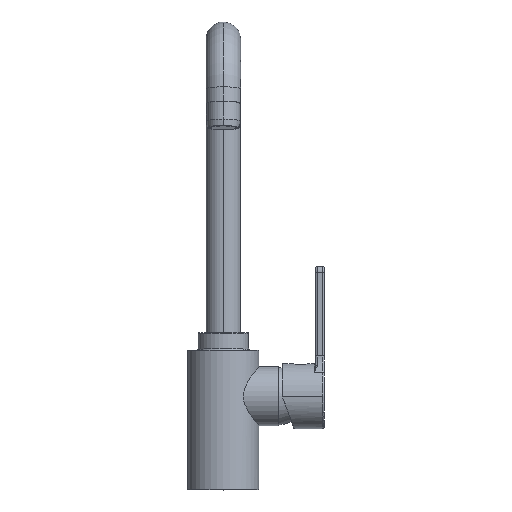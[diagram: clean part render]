
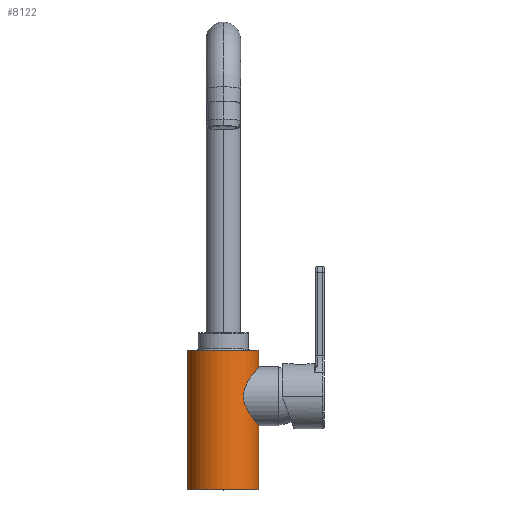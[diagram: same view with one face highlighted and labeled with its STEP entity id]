
A CAD part, top view. The second image highlights one B-rep face of the part: STEP entity #8122.
In plain terms, the highlighted cylindrical face has radius 24.75 mm (diameter 49.5 mm), a partial arc.
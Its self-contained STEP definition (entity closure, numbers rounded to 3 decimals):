
#2290=CARTESIAN_POINT('',(0.,96.8,0.));
#2291=DIRECTION('',(0.,-1.,0.));
#2292=DIRECTION('',(1.,0.,0.));
#2293=AXIS2_PLACEMENT_3D('',#2290,#2291,#2292);
#2295=CARTESIAN_POINT('',(24.75,44.5,0.));
#2296=CARTESIAN_POINT('',(24.75,44.5,0.27));
#2297=CARTESIAN_POINT('',(24.741,44.511,0.812));
#2298=CARTESIAN_POINT('',(24.701,44.559,1.624));
#2299=CARTESIAN_POINT('',(24.634,44.64,2.436));
#2300=CARTESIAN_POINT('',(24.54,44.754,3.249));
#2301=CARTESIAN_POINT('',(24.419,44.901,4.062));
#2302=CARTESIAN_POINT('',(24.27,45.082,4.875));
#2303=CARTESIAN_POINT('',(24.092,45.299,5.689));
#2304=CARTESIAN_POINT('',(23.885,45.552,6.503));
#2305=CARTESIAN_POINT('',(23.649,45.843,7.315));
#2306=CARTESIAN_POINT('',(23.383,46.173,8.127));
#2307=CARTESIAN_POINT('',(23.086,46.543,8.937));
#2308=CARTESIAN_POINT('',(22.757,46.956,9.743));
#2309=CARTESIAN_POINT('',(22.397,47.411,10.544));
#2310=CARTESIAN_POINT('',(22.006,47.913,11.339));
#2311=CARTESIAN_POINT('',(21.583,48.461,12.125));
#2312=CARTESIAN_POINT('',(21.13,49.056,12.899));
#2313=CARTESIAN_POINT('',(20.648,49.7,13.656));
#2314=CARTESIAN_POINT('',(20.14,50.392,14.395));
#2315=CARTESIAN_POINT('',(19.61,51.131,15.108));
#2316=CARTESIAN_POINT('',(19.064,51.914,15.791));
#2317=CARTESIAN_POINT('',(18.509,52.735,16.438));
#2318=CARTESIAN_POINT('',(17.956,53.587,17.039));
#2319=CARTESIAN_POINT('',(17.414,54.459,17.592));
#2320=CARTESIAN_POINT('',(16.895,55.34,18.091));
#2321=CARTESIAN_POINT('',(16.411,56.215,18.53));
#2322=CARTESIAN_POINT('',(15.966,57.076,18.914));
#2323=CARTESIAN_POINT('',(15.567,57.916,19.244));
#2324=CARTESIAN_POINT('',(15.215,58.726,19.522));
#2325=CARTESIAN_POINT('',(14.91,59.509,19.756));
#2326=CARTESIAN_POINT('',(14.649,60.262,19.95));
#2327=CARTESIAN_POINT('',(14.431,60.989,20.108));
#2328=CARTESIAN_POINT('',(14.251,61.694,20.236));
#2329=CARTESIAN_POINT('',(14.108,62.378,20.335));
#2330=CARTESIAN_POINT('',(13.999,63.047,20.41));
#2331=CARTESIAN_POINT('',(13.923,63.705,20.463));
#2332=CARTESIAN_POINT('',(13.878,64.355,20.493));
#2333=CARTESIAN_POINT('',(13.863,65.,20.503));
#2334=CARTESIAN_POINT('',(13.878,65.646,20.493));
#2335=CARTESIAN_POINT('',(13.923,66.296,20.462));
#2336=CARTESIAN_POINT('',(14.,66.954,20.41));
#2337=CARTESIAN_POINT('',(14.108,67.622,20.335));
#2338=CARTESIAN_POINT('',(14.251,68.307,20.236));
#2339=CARTESIAN_POINT('',(14.431,69.012,20.108));
#2340=CARTESIAN_POINT('',(14.649,69.739,19.95));
#2341=CARTESIAN_POINT('',(14.91,70.493,19.756));
#2342=CARTESIAN_POINT('',(15.215,71.275,19.522));
#2343=CARTESIAN_POINT('',(15.567,72.085,19.243));
#2344=CARTESIAN_POINT('',(15.967,72.925,18.914));
#2345=CARTESIAN_POINT('',(16.411,73.785,18.53));
#2346=CARTESIAN_POINT('',(16.895,74.66,18.09));
#2347=CARTESIAN_POINT('',(17.415,75.541,17.592));
#2348=CARTESIAN_POINT('',(17.956,76.413,17.039));
#2349=CARTESIAN_POINT('',(18.509,77.264,16.438));
#2350=CARTESIAN_POINT('',(19.064,78.086,15.791));
#2351=CARTESIAN_POINT('',(19.61,78.869,15.108));
#2352=CARTESIAN_POINT('',(20.14,79.608,14.395));
#2353=CARTESIAN_POINT('',(20.648,80.3,13.656));
#2354=CARTESIAN_POINT('',(21.129,80.944,12.899));
#2355=CARTESIAN_POINT('',(21.583,81.539,12.125));
#2356=CARTESIAN_POINT('',(22.005,82.087,11.34));
#2357=CARTESIAN_POINT('',(22.397,82.588,10.544));
#2358=CARTESIAN_POINT('',(22.757,83.044,9.743));
#2359=CARTESIAN_POINT('',(23.086,83.457,8.937));
#2360=CARTESIAN_POINT('',(23.383,83.827,8.127));
#2361=CARTESIAN_POINT('',(23.649,84.157,7.315));
#2362=CARTESIAN_POINT('',(23.885,84.448,6.503));
#2363=CARTESIAN_POINT('',(24.092,84.701,5.689));
#2364=CARTESIAN_POINT('',(24.27,84.918,4.876));
#2365=CARTESIAN_POINT('',(24.419,85.099,4.062));
#2366=CARTESIAN_POINT('',(24.54,85.246,3.249));
#2367=CARTESIAN_POINT('',(24.634,85.36,2.436));
#2368=CARTESIAN_POINT('',(24.701,85.441,1.624));
#2369=CARTESIAN_POINT('',(24.741,85.489,0.812));
#2370=CARTESIAN_POINT('',(24.75,85.5,0.27));
#2371=CARTESIAN_POINT('',(24.75,85.5,0.));
#2373=CARTESIAN_POINT('',(0.,0.2,0.));
#2374=DIRECTION('',(0.,-1.,0.));
#2375=DIRECTION('',(1.,0.,0.));
#2376=AXIS2_PLACEMENT_3D('',#2373,#2374,#2375);
#2393=DIRECTION('',(0.,-1.,0.));
#2394=VECTOR('',#2393,96.6);
#2395=CARTESIAN_POINT('',(-24.75,96.8,0.));
#2396=LINE('',#2395,#2394);
#2402=DIRECTION('',(0.,-1.,0.));
#2403=VECTOR('',#2402,44.3);
#2404=CARTESIAN_POINT('',(24.75,44.5,0.));
#2405=LINE('',#2404,#2403);
#2484=DIRECTION('',(0.,-1.,0.));
#2485=VECTOR('',#2484,11.3);
#2486=CARTESIAN_POINT('',(24.75,96.8,0.));
#2487=LINE('',#2486,#2485);
#4601=VERTEX_POINT('',#2295);
#4602=VERTEX_POINT('',#2371);
#4777=CARTESIAN_POINT('',(-24.75,96.8,0.));
#4778=CARTESIAN_POINT('',(24.75,96.8,0.));
#4779=VERTEX_POINT('',#4777);
#4780=VERTEX_POINT('',#4778);
#4789=CARTESIAN_POINT('',(24.75,0.2,0.));
#4790=CARTESIAN_POINT('',(-24.75,0.2,0.));
#4791=VERTEX_POINT('',#4789);
#4792=VERTEX_POINT('',#4790);
#8104=CARTESIAN_POINT('',(0.,-5.45,0.));
#8105=DIRECTION('',(0.,1.,0.));
#8106=DIRECTION('',(1.,0.,0.));
#8107=AXIS2_PLACEMENT_3D('',#8104,#8105,#8106);
#8108=CYLINDRICAL_SURFACE('',#8107,24.75);
#8110=ORIENTED_EDGE('',*,*,#8109,.F.);
#8112=ORIENTED_EDGE('',*,*,#8111,.T.);
#8113=ORIENTED_EDGE('',*,*,#8094,.F.);
#8115=ORIENTED_EDGE('',*,*,#8114,.T.);
#8117=ORIENTED_EDGE('',*,*,#8116,.T.);
#8119=ORIENTED_EDGE('',*,*,#8118,.F.);
#8120=EDGE_LOOP('',(#8110,#8112,#8113,#8115,#8117,#8119));
#8121=FACE_OUTER_BOUND('',#8120,.F.);
#8122=ADVANCED_FACE('',(#8121),#8108,.T.);
#2294=CIRCLE('',#2293,24.75);
#2372=B_SPLINE_CURVE_WITH_KNOTS('',3,(#2295,#2296,#2297,#2298,#2299,#2300,#2301,
#2302,#2303,#2304,#2305,#2306,#2307,#2308,#2309,#2310,#2311,#2312,#2313,#2314,
#2315,#2316,#2317,#2318,#2319,#2320,#2321,#2322,#2323,#2324,#2325,#2326,#2327,
#2328,#2329,#2330,#2331,#2332,#2333,#2334,#2335,#2336,#2337,#2338,#2339,#2340,
#2341,#2342,#2343,#2344,#2345,#2346,#2347,#2348,#2349,#2350,#2351,#2352,#2353,
#2354,#2355,#2356,#2357,#2358,#2359,#2360,#2361,#2362,#2363,#2364,#2365,#2366,
#2367,#2368,#2369,#2370,#2371),.UNSPECIFIED.,.F.,.F.,(4,1,1,1,1,1,1,1,1,1,1,1,1,
1,1,1,1,1,1,1,1,1,1,1,1,1,1,1,1,1,1,1,1,1,1,1,1,1,1,1,1,1,1,1,1,1,1,1,1,1,1,1,1,
1,1,1,1,1,1,1,1,1,1,1,1,1,1,1,1,1,1,1,1,1,4),(0.,0.014,
0.027,0.041,0.054,0.068,
0.081,0.095,0.108,0.122,
0.135,0.149,0.162,0.176,
0.189,0.203,0.216,0.23,
0.243,0.257,0.27,0.284,
0.297,0.311,0.324,0.338,
0.351,0.365,0.378,0.392,
0.405,0.419,0.432,0.446,
0.459,0.473,0.486,0.5,0.514,
0.527,0.541,0.554,0.568,
0.581,0.595,0.608,0.622,
0.635,0.649,0.662,0.676,
0.689,0.703,0.716,0.73,
0.743,0.757,0.77,0.784,
0.797,0.811,0.824,0.838,
0.851,0.865,0.878,0.892,
0.905,0.919,0.932,0.946,
0.959,0.973,0.986,1.),.UNSPECIFIED.);
#2377=CIRCLE('',#2376,24.75);
#8094=EDGE_CURVE('',#4601,#4602,#2372,.T.);
#8109=EDGE_CURVE('',#4780,#4779,#2294,.T.);
#8111=EDGE_CURVE('',#4780,#4602,#2487,.T.);
#8114=EDGE_CURVE('',#4601,#4791,#2405,.T.);
#8116=EDGE_CURVE('',#4791,#4792,#2377,.T.);
#8118=EDGE_CURVE('',#4779,#4792,#2396,.T.);
